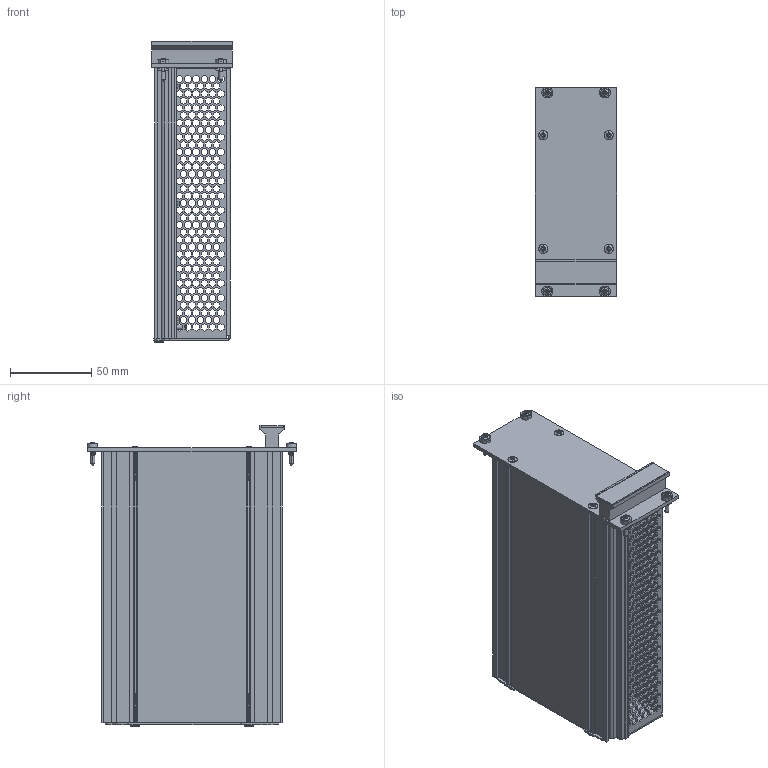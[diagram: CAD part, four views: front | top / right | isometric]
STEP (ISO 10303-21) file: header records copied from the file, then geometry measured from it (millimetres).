
FILE_DESCRIPTION (( 'STEP AP203' ), '1' );
FILE_NAME ('物理保护型模件盒10HP167通风.STEP', '2026-03-31T09:25:09', ( 'Windows User' ), ( 'P R C' ), 'SwSTEP 2.0', 'SolidWorks 2013', '' );
FILE_SCHEMA (( 'CONFIG_CONTROL_DESIGN' ));
Length unit declared in the file: millimetre
Products named in the file (27): 1_7; 1_19; 1_25; 1_8; 1_26; 1_23; 1_27; 1_12; 1_30; 1_22; 1; 1_4; 1_9; 1_6; 1_15; 1_24; 1_20; 1_2; 1_18; 1_21; 1_29; 3U倰第; 1_11; 1_14; 1_3; 物理保护型模件盒10HP167通风; 1_28
Assembly tree (26 placements, depth 2):
  物理保护型模件盒10HP167通风
    1
    1_2
    1_3
    1_4
    3U倰第
    1_6
    1_7
    1_8
    1_9
    1_11
    1_12
    1_14
    1_15
    1_18
    1_19
    1_20
    1_21
    1_22
    1_23
    1_24
    1_25
    1_26
    1_27
    1_28
    1_29
    1_30
Bounding box: 50.46 x 128.4 x 186 mm (x, y, z)
Volume: 124330.6 mm3; surface area: 172908.7 mm2
Topology: 26 solids, 26 shells, 4848 faces, 13642 edges, 9013 vertices
Faces by surface type: plane 3638, bspline 632, cylinder 492, cone 86
Entity records: 192149 total; most frequent: CARTESIAN_POINT 66291, ORIENTED_EDGE 27212, DIRECTION 21663, EDGE_CURVE 13606, VECTOR 10909, LINE 10909, VERTEX_POINT 9013, EDGE_LOOP 5961
